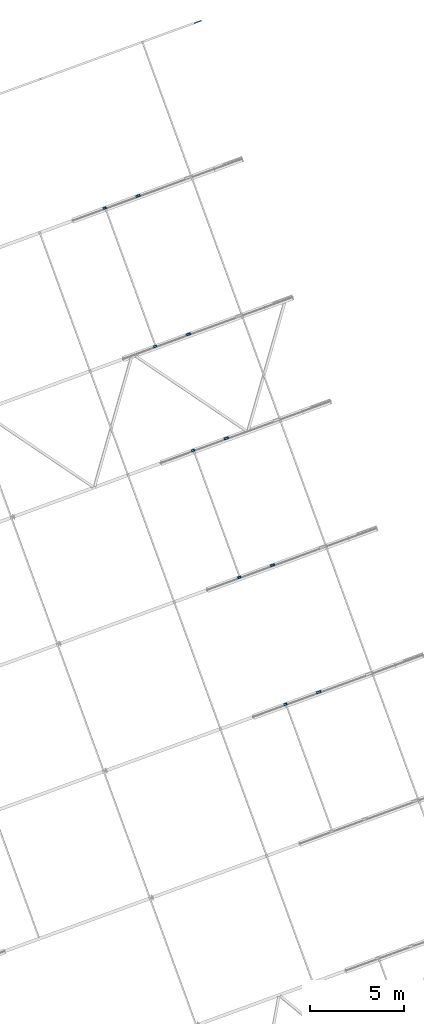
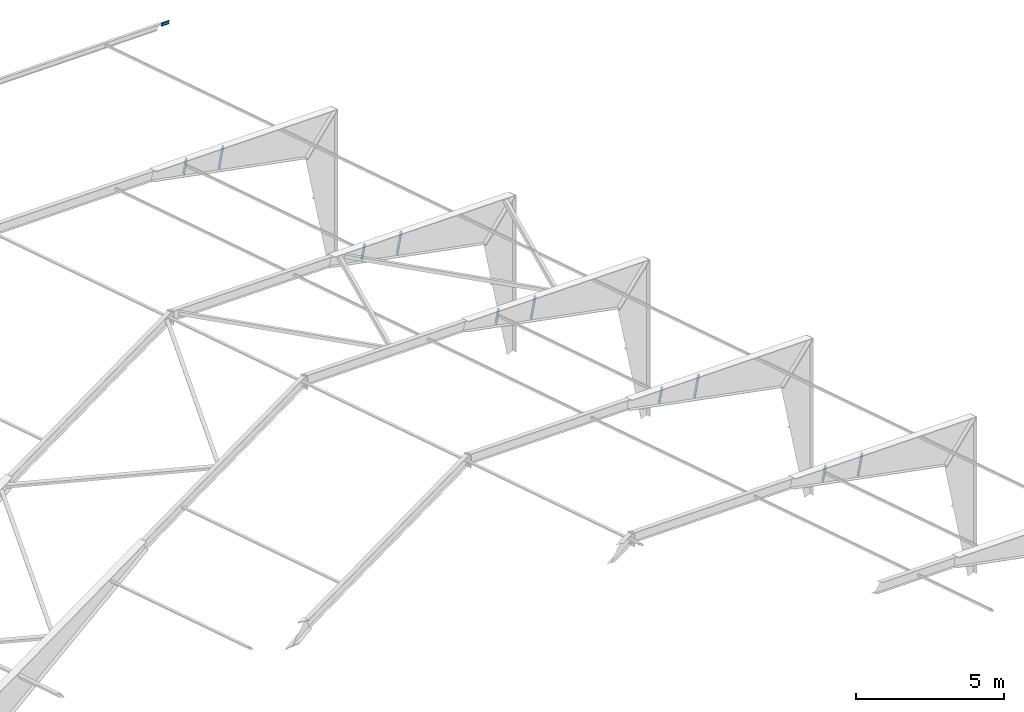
# One storey, part 8 of 17: 10 members, 1 beam, 1 opening, 11 elements without a shape of their own.
"""IFC4 building model written with IfcOpenShell, lengths in millimetres."""

from ifc_helpers import new_model, si_unit, direction, frame, origin_with_axes, place, context, subcontext, project, spatial, line, indexed_curve, outline, extrude, material, element, aggregate, save


model = new_model("IFC4")

# Units and contexts
model_context = context("Model", 3, precision=0.2, world=frame((203566.813, 116264.779, 0.0), z_axis=(0.0, 0.0, 1.0), x_axis=(1.0, 0.0, 0.0)), true_north=direction((-0.9396138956, -0.3422363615)))
body_context = subcontext(model_context, "Body", "Model", "MODEL_VIEW")
ifc_project = project(units=[si_unit("LENGTHUNIT", "METRE", prefix="MILLI"), si_unit("AREAUNIT", "SQUARE_METRE"), si_unit("VOLUMEUNIT", "CUBIC_METRE"), si_unit("MASSUNIT", "GRAM", prefix="KILO"), si_unit("TIMEUNIT", "SECOND"), si_unit("PLANEANGLEUNIT", "RADIAN"), si_unit("SOLIDANGLEUNIT", "STERADIAN"), si_unit("THERMODYNAMICTEMPERATUREUNIT", "DEGREE_CELSIUS"), si_unit("LUMINOUSINTENSITYUNIT", "LUMEN")], contexts=[model_context])

# Site, building, storey
site_placement = place(None, origin_with_axes())
site = spatial("IfcSite", under=ifc_project, at=site_placement, Name="Nobelprojektet", CompositionType="ELEMENT")
building_placement = place(site_placement, origin_with_axes())
building = spatial("IfcBuilding", under=site, at=building_placement, Name="Hall B", CompositionType="ELEMENT")
storey_placement = place(building_placement, frame((0.0, 0.0, 136000.0), z_axis=(0.0, 0.0, 1.0), x_axis=(1.0, 0.0, 0.0)))
storey = spatial("IfcBuildingStorey", under=building, at=storey_placement, Name="Plan_2", CompositionType="ELEMENT", Elevation=136000.0)

# Assembly, beam, voiding feature
assembly_1_placement = place(storey_placement, frame((162603.71305, 186103.0993, 3507.5509), z_axis=(0.3422371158, -0.9396136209, 1.3e-09), x_axis=(-0.9075895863, -0.3305729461, 0.2588487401)))
assembly_1 = element("IfcElementAssembly", 1, at=assembly_1_placement, inside=storey, Name="BEF. STOMME", PredefinedType="NOTDEFINED")
ifc_material = material(Name="S355J2", Category="STEEL")
beam_placement = place(assembly_1_placement, origin_with_axes())
beam = element("IfcBeam", 2, at=beam_placement, material=ifc_material, Name="BEF. STOMME", PredefinedType="NOTDEFINED", context=body_context, shape_type="SolidModel", body=[
    extrude(outline(indexed_curve([(-32.0, -60.0), (32.0, -60.0), (32.0, -53.7), (2.2, -53.7), (2.2, 53.7), (32.0, 53.7), (32.0, 60.0), (-32.0, 60.0), (-32.0, 53.7), (-2.2, 53.7), (-2.2, -53.7), (-32.0, -53.7)], segments=[line(1, 2, 3, 4, 5, 6, 7, 8, 9, 10, 11, 12, 1)])), frame((0.0, 0.0, 0.0), z_axis=(-1.0, 0.0, 0.0), x_axis=(0.0, 0.0, 1.0)), (0.0, 0.0, -1.0), 442.3458),
])
voiding_feature_placement = place(beam_placement, frame((410.18513, 60.0, 0.0), z_axis=(0.0, 0.0, -1.0), x_axis=(1.0, 0.0, 0.0)))
element("IfcVoidingFeature", 3, at=voiding_feature_placement, cuts=beam, Name="CUTPART", PredefinedType="HOLE", context=body_context, shape_type="SolidModel", body=[
    extrude(outline(indexed_curve([(0.0, 0.0), (32.16068, 0.0), (32.16068, 120.0)], segments=[line(1, 2, 3, 1)])), frame((0.0, 0.0, 34.5), z_axis=(0.0, 0.0, 1.0), x_axis=(1.0, 0.0, 0.0)), (0.0, 0.0, -1.0), 69.0),
])
aggregate(assembly_1, [beam])

# Assembly, member
assembly_2_placement = place(storey_placement, frame((168753.98773, 150269.12533, 4361.1007), z_axis=(0.9075974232, 0.3305758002, -0.2588176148), x_axis=(0.2431885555, 0.0885769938, 0.9659262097)))
assembly_2 = element("IfcElementAssembly", 4, at=assembly_2_placement, inside=storey, Name="BEF. STOMME", PredefinedType="NOTDEFINED")
member_1_placement = place(assembly_2_placement, origin_with_axes())
member_1 = element("IfcMember", 5, at=member_1_placement, material=ifc_material, Name="BEF. STOMME", PredefinedType="NOTDEFINED", context=body_context, shape_type="SolidModel", body=[
    extrude(outline(indexed_curve([(-7.5, -50.0), (7.5, -50.0), (7.5, 50.0), (-7.5, 50.0)], segments=[line(1, 2, 3, 4, 1)])), frame((0.0, 0.0, 0.0), z_axis=(-1.0, 0.0, 0.0), x_axis=(0.0, 0.0, 1.0)), (0.0, 0.0, -1.0), 883.23799),
])
aggregate(assembly_2, [member_1])

assembly_3_placement = place(storey_placement, frame((167012.98102, 149634.99541, 5134.76066), z_axis=(0.9075974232, 0.3305758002, -0.2588176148), x_axis=(0.2431885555, 0.0885769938, 0.9659262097)))
assembly_3 = element("IfcElementAssembly", 6, at=assembly_3_placement, inside=storey, Name="BEF. STOMME", PredefinedType="NOTDEFINED")
member_2_placement = place(assembly_3_placement, origin_with_axes())
member_2 = element("IfcMember", 7, at=member_2_placement, material=ifc_material, Name="BEF. STOMME", PredefinedType="NOTDEFINED", context=body_context, shape_type="SolidModel", body=[
    extrude(outline(indexed_curve([(-7.5, -50.0), (7.5, -50.0), (7.5, 50.0), (-7.5, 50.0)], segments=[line(1, 2, 3, 4, 1)])), frame((0.0, 0.0, 0.0), z_axis=(-1.0, 0.0, 0.0), x_axis=(0.0, 0.0, 1.0)), (0.0, 0.0, -1.0), 614.49783),
])
aggregate(assembly_3, [member_2])

assembly_4_placement = place(storey_placement, frame((166289.88049, 157034.3434, 4361.1007), z_axis=(0.9075974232, 0.3305758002, -0.2588176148), x_axis=(0.2431885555, 0.0885769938, 0.9659262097)))
assembly_4 = element("IfcElementAssembly", 8, at=assembly_4_placement, inside=storey, Name="BEF. STOMME", PredefinedType="NOTDEFINED")
member_3_placement = place(assembly_4_placement, origin_with_axes())
member_3 = element("IfcMember", 9, at=member_3_placement, material=ifc_material, Name="BEF. STOMME", PredefinedType="NOTDEFINED", context=body_context, shape_type="SolidModel", body=[
    extrude(outline(indexed_curve([(-7.5, -50.0), (7.5, -50.0), (7.5, 50.0), (-7.5, 50.0)], segments=[line(1, 2, 3, 4, 1)])), frame((0.0, 0.0, 0.0), z_axis=(-1.0, 0.0, 0.0), x_axis=(0.0, 0.0, 1.0)), (0.0, 0.0, -1.0), 883.23799),
])
aggregate(assembly_4, [member_3])

assembly_5_placement = place(storey_placement, frame((164548.87378, 156400.21348, 5134.76066), z_axis=(0.9075974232, 0.3305758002, -0.2588176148), x_axis=(0.2431885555, 0.0885769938, 0.9659262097)))
assembly_5 = element("IfcElementAssembly", 10, at=assembly_5_placement, inside=storey, Name="BEF. STOMME", PredefinedType="NOTDEFINED")
member_4_placement = place(assembly_5_placement, origin_with_axes())
member_4 = element("IfcMember", 11, at=member_4_placement, material=ifc_material, Name="BEF. STOMME", PredefinedType="NOTDEFINED", context=body_context, shape_type="SolidModel", body=[
    extrude(outline(indexed_curve([(-7.5, -50.0), (7.5, -50.0), (7.5, 50.0), (-7.5, 50.0)], segments=[line(1, 2, 3, 4, 1)])), frame((0.0, 0.0, 0.0), z_axis=(-1.0, 0.0, 0.0), x_axis=(0.0, 0.0, 1.0)), (0.0, 0.0, -1.0), 614.49783),
])
aggregate(assembly_5, [member_4])

assembly_6_placement = place(storey_placement, frame((163825.77326, 163799.56147, 4361.1007), z_axis=(0.9075974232, 0.3305758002, -0.2588176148), x_axis=(0.2431885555, 0.0885769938, 0.9659262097)))
assembly_6 = element("IfcElementAssembly", 12, at=assembly_6_placement, inside=storey, Name="BEF. STOMME", PredefinedType="NOTDEFINED")
member_5_placement = place(assembly_6_placement, origin_with_axes())
member_5 = element("IfcMember", 13, at=member_5_placement, material=ifc_material, Name="BEF. STOMME", PredefinedType="NOTDEFINED", context=body_context, shape_type="SolidModel", body=[
    extrude(outline(indexed_curve([(-7.5, -50.0), (7.5, -50.0), (7.5, 50.0), (-7.5, 50.0)], segments=[line(1, 2, 3, 4, 1)])), frame((0.0, 0.0, 0.0), z_axis=(-1.0, 0.0, 0.0), x_axis=(0.0, 0.0, 1.0)), (0.0, 0.0, -1.0), 883.23799),
])
aggregate(assembly_6, [member_5])

assembly_7_placement = place(storey_placement, frame((162084.76655, 163165.43154, 5134.76066), z_axis=(0.9075974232, 0.3305758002, -0.2588176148), x_axis=(0.2431885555, 0.0885769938, 0.9659262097)))
assembly_7 = element("IfcElementAssembly", 14, at=assembly_7_placement, inside=storey, Name="BEF. STOMME", PredefinedType="NOTDEFINED")
member_6_placement = place(assembly_7_placement, origin_with_axes())
member_6 = element("IfcMember", 15, at=member_6_placement, material=ifc_material, Name="BEF. STOMME", PredefinedType="NOTDEFINED", context=body_context, shape_type="SolidModel", body=[
    extrude(outline(indexed_curve([(-7.5, -50.0), (7.5, -50.0), (7.5, 50.0), (-7.5, 50.0)], segments=[line(1, 2, 3, 4, 1)])), frame((0.0, 0.0, 0.0), z_axis=(-1.0, 0.0, 0.0), x_axis=(0.0, 0.0, 1.0)), (0.0, 0.0, -1.0), 614.49783),
])
aggregate(assembly_7, [member_6])

assembly_8_placement = place(storey_placement, frame((161806.57427, 169343.28183, 4361.1007), z_axis=(0.9075974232, 0.3305758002, -0.2588176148), x_axis=(0.2431885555, 0.0885769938, 0.9659262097)))
assembly_8 = element("IfcElementAssembly", 16, at=assembly_8_placement, inside=storey, Name="BEF. STOMME", PredefinedType="NOTDEFINED")
member_7_placement = place(assembly_8_placement, origin_with_axes())
member_7 = element("IfcMember", 17, at=member_7_placement, material=ifc_material, Name="BEF. STOMME", PredefinedType="NOTDEFINED", context=body_context, shape_type="SolidModel", body=[
    extrude(outline(indexed_curve([(-7.5, -50.0), (7.5, -50.0), (7.5, 50.0), (-7.5, 50.0)], segments=[line(1, 2, 3, 4, 1)])), frame((0.0, 0.0, 0.0), z_axis=(-1.0, 0.0, 0.0), x_axis=(0.0, 0.0, 1.0)), (0.0, 0.0, -1.0), 883.23799),
])
aggregate(assembly_8, [member_7])

assembly_9_placement = place(storey_placement, frame((160065.56756, 168709.15191, 5134.76066), z_axis=(0.9075974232, 0.3305758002, -0.2588176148), x_axis=(0.2431885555, 0.0885769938, 0.9659262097)))
assembly_9 = element("IfcElementAssembly", 18, at=assembly_9_placement, inside=storey, Name="BEF. STOMME", PredefinedType="NOTDEFINED")
member_8_placement = place(assembly_9_placement, origin_with_axes())
member_8 = element("IfcMember", 19, at=member_8_placement, material=ifc_material, Name="BEF. STOMME", PredefinedType="NOTDEFINED", context=body_context, shape_type="SolidModel", body=[
    extrude(outline(indexed_curve([(-7.5, -50.0), (7.5, -50.0), (7.5, 50.0), (-7.5, 50.0)], segments=[line(1, 2, 3, 4, 1)])), frame((0.0, 0.0, 0.0), z_axis=(-1.0, 0.0, 0.0), x_axis=(0.0, 0.0, 1.0)), (0.0, 0.0, -1.0), 614.49783),
])
aggregate(assembly_9, [member_8])

assembly_10_placement = place(storey_placement, frame((159120.01291, 176719.24876, 4361.1007), z_axis=(0.9075974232, 0.3305758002, -0.2588176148), x_axis=(0.2431885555, 0.0885769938, 0.9659262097)))
assembly_10 = element("IfcElementAssembly", 20, at=assembly_10_placement, inside=storey, Name="BEF. STOMME", PredefinedType="NOTDEFINED")
member_9_placement = place(assembly_10_placement, origin_with_axes())
member_9 = element("IfcMember", 21, at=member_9_placement, material=ifc_material, Name="BEF. STOMME", PredefinedType="NOTDEFINED", context=body_context, shape_type="SolidModel", body=[
    extrude(outline(indexed_curve([(-7.5, -50.0), (7.5, -50.0), (7.5, 50.0), (-7.5, 50.0)], segments=[line(1, 2, 3, 4, 1)])), frame((0.0, 0.0, 0.0), z_axis=(-1.0, 0.0, 0.0), x_axis=(0.0, 0.0, 1.0)), (0.0, 0.0, -1.0), 883.23799),
])
aggregate(assembly_10, [member_9])

assembly_11_placement = place(storey_placement, frame((157379.0062, 176085.11883, 5134.76066), z_axis=(0.9075974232, 0.3305758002, -0.2588176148), x_axis=(0.2431885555, 0.0885769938, 0.9659262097)))
assembly_11 = element("IfcElementAssembly", 22, at=assembly_11_placement, inside=storey, Name="BEF. STOMME", PredefinedType="NOTDEFINED")
member_10_placement = place(assembly_11_placement, origin_with_axes())
member_10 = element("IfcMember", 23, at=member_10_placement, material=ifc_material, Name="BEF. STOMME", PredefinedType="NOTDEFINED", context=body_context, shape_type="SolidModel", body=[
    extrude(outline(indexed_curve([(-7.5, -50.0), (7.5, -50.0), (7.5, 50.0), (-7.5, 50.0)], segments=[line(1, 2, 3, 4, 1)])), frame((0.0, 0.0, 0.0), z_axis=(-1.0, 0.0, 0.0), x_axis=(0.0, 0.0, 1.0)), (0.0, 0.0, -1.0), 614.49783),
])
aggregate(assembly_11, [member_10])

save(model, "model.ifc")
